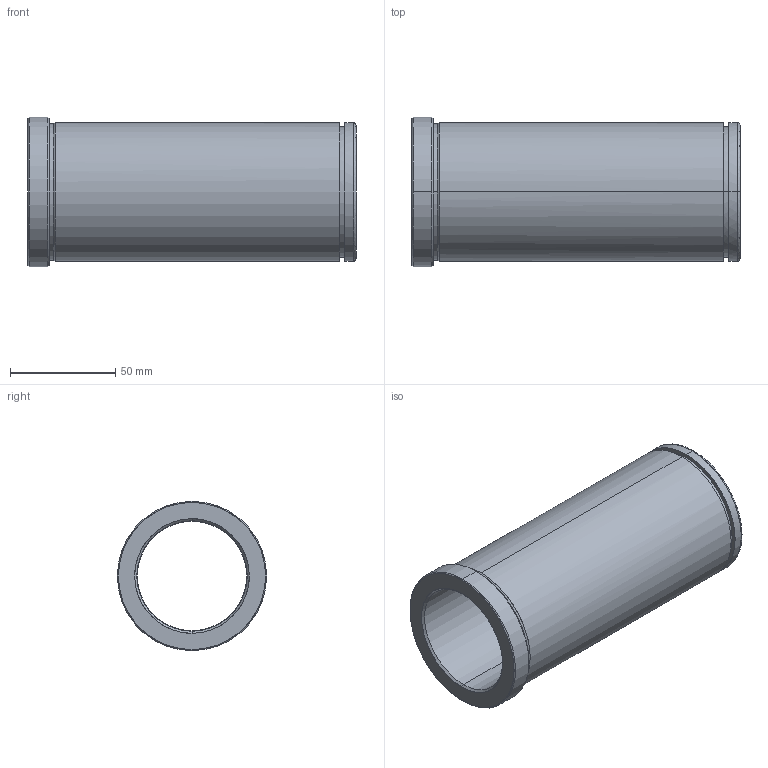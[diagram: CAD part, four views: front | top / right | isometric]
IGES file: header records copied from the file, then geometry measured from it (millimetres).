
Start section: START RECORD GO HERE.
Global section: file name: 553-52X156.igs; native system: DASSAULT SYSTEMES CATIA V5 R20 - www.3ds.com; preprocessor: CATIA Version 5 Release 20 ; author: Utente; organization: NB04-ASUS; date: 20210608.200014; units: millimetre
Bounding box: 156 x 71 x 71 mm (x, y, z)
Surface area: 62108.5 mm2 (no closed solid volume)
Topology: 0 solids, 0 shells, 32 faces, 204 edges, 204 vertices
Faces by surface type: revolution 26, plane 6
